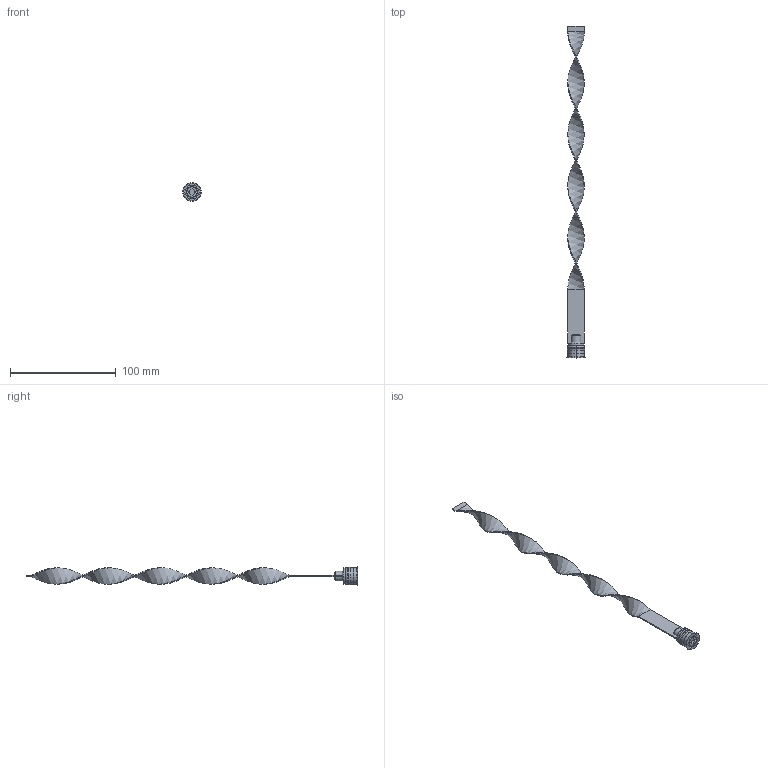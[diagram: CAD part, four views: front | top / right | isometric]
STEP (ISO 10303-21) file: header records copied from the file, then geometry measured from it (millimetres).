
FILE_DESCRIPTION (( 'STEP AP203' ), '1' );
FILE_NAME ('RLS-16Fx300-15,5.STEP', '2015-12-09T14:48:05', ( 'Balzi' ), ( '' ), 'SwSTEP 2.0', 'SolidWorks 2015', '' );
FILE_SCHEMA (( 'CONFIG_CONTROL_DESIGN' ));
Length unit declared in the file: millimetre
Products named in the file (1): RLS-16Fx300-15,5
Bounding box: 17.5 x 314 x 17.5 mm (x, y, z)
Volume: 7578.5 mm3; surface area: 11980.9 mm2
Topology: 1 solids, 1 shells, 83 faces, 193 edges, 117 vertices
Faces by surface type: plane 35, cone 19, cylinder 17, torus 8, bspline 4
Entity records: 4457 total; most frequent: CARTESIAN_POINT 2500, DIRECTION 402, ORIENTED_EDGE 386, EDGE_CURVE 193, AXIS2_PLACEMENT_3D 151, VERTEX_POINT 117, VECTOR 100, LINE 100
